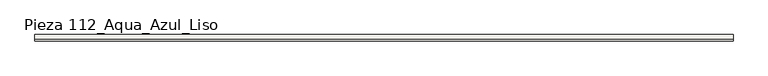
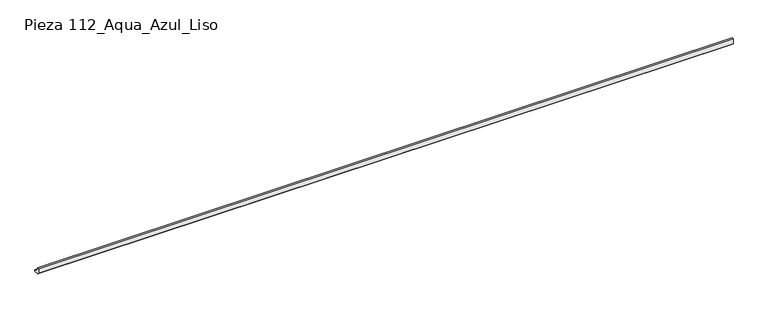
"""IFC4 building model written with IfcOpenShell, lengths in millimetres: slab geometry, ROSA GRES_112 : Pieza 112_Aqua_Azul_Liso."""

from ifc_helpers import new_model, si_unit, point, frame, frame_2d, origin, place, context, project, spatial, polyline, circle_curve, trimmed, segment, composite_curve, outline, extrude, source, transform, mapped, element, save


def pieza_112_aqua_azul_liso_c429846a(model_context):
    return source(origin(), model_context, "Body", "SweptSolid", [
        extrude(outline(composite_curve([segment(polyline([(0.0, 8.7114978), (0.0, 40.0), (9.9734114, 40.0)]), True, "CONTINUOUS"), segment(trimmed(circle_curve(frame_2d((39.9955547, 39.9955547)), 30.0221435), [point((9.9734114, 40.0))], [point((40.0, 9.9734114))], True, "CARTESIAN"), True, "CONTINUOUS"), segment(polyline([(40.0, 9.9734114), (40.0, 0.0), (8.7114978, 0.0), (0.0, 8.7114978)]), True, "CONTINUOUS")], self_intersect=False)), frame((0.0, 0.0, 0.0), z_axis=(1.0, 0.0, 0.0), x_axis=(0.0, 1.0, 0.0)), (0.0, 0.0, 1.0), 4240.0),
    ])


if __name__ == "__main__":
    model = new_model("IFC4")
    model_context = context("Model", 3, world=origin())
    ifc_project = project(units=[si_unit("LENGTHUNIT", "METRE", prefix="MILLI")], contexts=[model_context])
    site = spatial("IfcSite", under=ifc_project)
    building = spatial("IfcBuilding", under=site)
    placement = place(None, origin())
    pieza_112_aqua_azul_liso_shape = pieza_112_aqua_azul_liso_c429846a(model_context)
    element("IfcSlab", 1, ObjectType="ROSA GRES_112 : Pieza 112_Aqua_Azul_Liso", at=placement, inside=building, context=model_context, shape_type="MappedRepresentation", body=[
        mapped(pieza_112_aqua_azul_liso_shape, transform((0.0, 0.0, 0.0), x_axis=(1.0, 0.0, 0.0), y_axis=(0.0, 1.0, 0.0), z_axis=(0.0, 0.0, 1.0))),
    ])
    save(model, "model.ifc")
